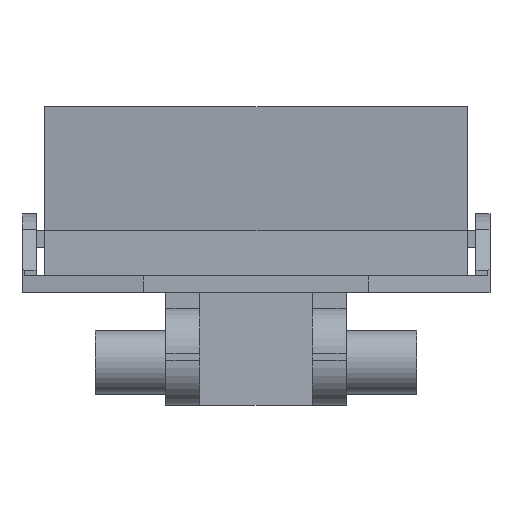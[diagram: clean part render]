
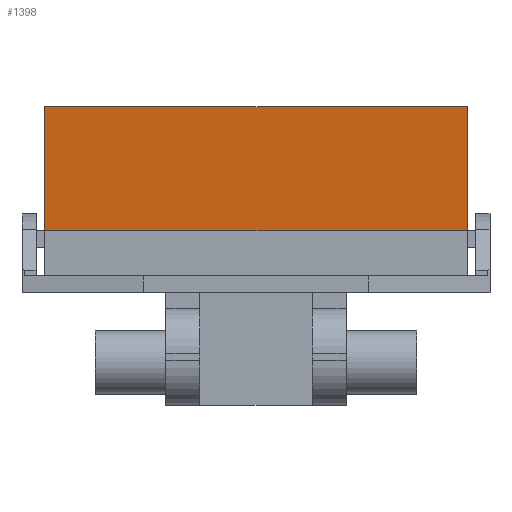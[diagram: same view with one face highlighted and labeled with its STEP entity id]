
A CAD part, front view. The second image highlights one B-rep face of the part: STEP entity #1398.
In plain terms, the highlighted planar face has unit normal (0, -0.996, -0.087).
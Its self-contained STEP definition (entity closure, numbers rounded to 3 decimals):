
#1363 = VERTEX_POINT ( 'NONE', #2288 ) ;
#1369 = EDGE_LOOP ( 'NONE', ( #1403, #1388, #1383, #1424 ) ) ;
#1371 = VERTEX_POINT ( 'NONE', #2045 ) ;
#1383 = ORIENTED_EDGE ( 'NONE', *, *, #1420, .F. ) ;
#1388 = ORIENTED_EDGE ( 'NONE', *, *, #1392, .T. ) ;
#1391 = VERTEX_POINT ( 'NONE', #2336 ) ;
#1392 = EDGE_CURVE ( 'NONE', #1371, #1391, #2340, .T. ) ;
#1398 = ADVANCED_FACE ( 'NONE', ( #2356 ), #2357, .T. ) ;
#1403 = ORIENTED_EDGE ( 'NONE', *, *, #1414, .T. ) ;
#1414 = EDGE_CURVE ( 'NONE', #1363, #1371, #2440, .T. ) ;
#1420 = EDGE_CURVE ( 'NONE', #1422, #1391, #2420, .T. ) ;
#1422 = VERTEX_POINT ( 'NONE', #2414 ) ;
#1424 = ORIENTED_EDGE ( 'NONE', *, *, #1432, .T. ) ;
#1432 = EDGE_CURVE ( 'NONE', #1422, #1363, #2397, .T. ) ;
#2045 = CARTESIAN_POINT ( 'NONE',  ( 190.6, 178.675, 61.1 ) ) ;
#2288 = CARTESIAN_POINT ( 'NONE',  ( 265.6, 178.675, 61.1 ) ) ;
#2336 = CARTESIAN_POINT ( 'NONE',  ( 190.6, 180.6, 39.1 ) ) ;
#2339 = CARTESIAN_POINT ( 'NONE',  ( 190.6, 178.675, 61.1 ) ) ;
#2340 = LINE ( 'NONE', #2339, #2341 ) ;
#2341 = VECTOR ( 'NONE', #2348, 1000. ) ;
#2348 = DIRECTION ( 'NONE',  ( 0., 0.087, -0.996 ) ) ;
#2352 = DIRECTION ( 'NONE',  ( 0., -0.996, -0.087 ) ) ;
#2353 = CARTESIAN_POINT ( 'NONE',  ( 265.6, 180.6, 39.1 ) ) ;
#2354 = AXIS2_PLACEMENT_3D ( 'NONE', #2353, #2352, #2358 ) ;
#2356 = FACE_OUTER_BOUND ( 'NONE', #1369, .T. ) ;
#2357 = PLANE ( 'NONE',  #2354 ) ;
#2358 = DIRECTION ( 'NONE',  ( 0., 0.087, -0.996 ) ) ;
#2397 = LINE ( 'NONE', #2409, #2400 ) ;
#2400 = VECTOR ( 'NONE', #2408, 1000. ) ;
#2408 = DIRECTION ( 'NONE',  ( 0., -0.087, 0.996 ) ) ;
#2409 = CARTESIAN_POINT ( 'NONE',  ( 265.6, 180.6, 39.1 ) ) ;
#2414 = CARTESIAN_POINT ( 'NONE',  ( 265.6, 180.6, 39.1 ) ) ;
#2416 = CARTESIAN_POINT ( 'NONE',  ( 265.6, 178.675, 61.1 ) ) ;
#2420 = LINE ( 'NONE', #2426, #2444 ) ;
#2425 = DIRECTION ( 'NONE',  ( -1., 0., 0. ) ) ;
#2426 = CARTESIAN_POINT ( 'NONE',  ( 265.6, 180.6, 39.1 ) ) ;
#2437 = DIRECTION ( 'NONE',  ( -1., 0., 0. ) ) ;
#2438 = VECTOR ( 'NONE', #2437, 1000. ) ;
#2440 = LINE ( 'NONE', #2416, #2438 ) ;
#2444 = VECTOR ( 'NONE', #2425, 1000. ) ;
